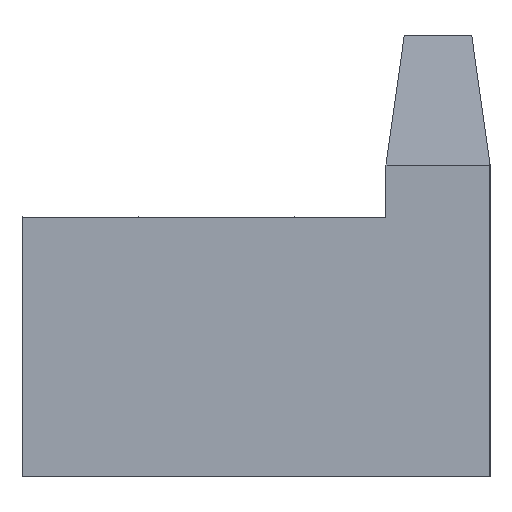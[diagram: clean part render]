
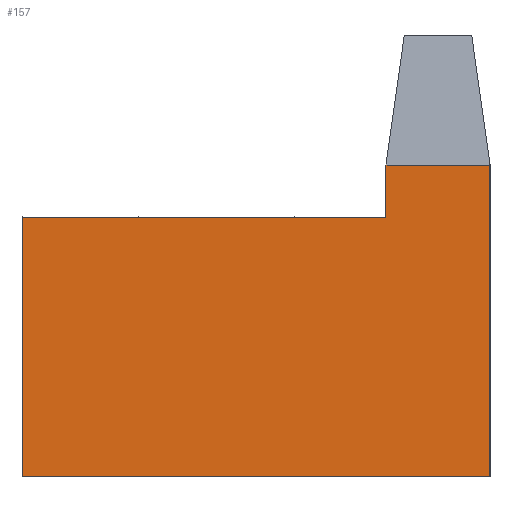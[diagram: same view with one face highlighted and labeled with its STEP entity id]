
A CAD part, left-side view. The second image highlights one B-rep face of the part: STEP entity #157.
In plain terms, the highlighted planar face has unit normal (-1, 0, 0).
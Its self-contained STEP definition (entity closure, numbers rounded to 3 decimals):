
#157=ADVANCED_FACE('',(#926),#928,.T.);
#926=FACE_BOUND('',#927,.T.);
#927=EDGE_LOOP('',(#1512,#1513,#1514,#1515,#1516,#1517));
#928=PLANE('',#929);
#929=AXIS2_PLACEMENT_3D('',#930,#931,#932);
#930=CARTESIAN_POINT('',(0.,30.,0.));
#931=DIRECTION('',(-1.,0.,0.));
#932=DIRECTION('',(0.,-1.,0.));
#1512=ORIENTED_EDGE('',*,*,#1839,.T.);
#1513=ORIENTED_EDGE('',*,*,#1805,.T.);
#1514=ORIENTED_EDGE('',*,*,#1856,.T.);
#1515=ORIENTED_EDGE('',*,*,#1857,.F.);
#1516=ORIENTED_EDGE('',*,*,#1858,.F.);
#1517=ORIENTED_EDGE('',*,*,#1815,.F.);
#1805=EDGE_CURVE('',#1984,#1989,#1991,.F.);
#1815=EDGE_CURVE('',#2009,#2011,#2012,.T.);
#1839=EDGE_CURVE('',#2009,#1984,#2057,.F.);
#1856=EDGE_CURVE('',#1989,#2087,#2089,.T.);
#1857=EDGE_CURVE('',#2090,#2087,#2091,.T.);
#1858=EDGE_CURVE('',#2011,#2090,#2092,.T.);
#1984=VERTEX_POINT('',#2277);
#1989=VERTEX_POINT('',#2286);
#1991=LINE('',#2290,#2291);
#2009=VERTEX_POINT('',#2334);
#2011=VERTEX_POINT('',#2338);
#2012=LINE('',#2339,#2340);
#2057=LINE('',#2440,#2441);
#2087=VERTEX_POINT('',#2502);
#2089=LINE('',#2506,#2507);
#2090=VERTEX_POINT('',#2509);
#2091=LINE('',#2510,#2511);
#2092=LINE('',#2513,#2514);
#2277=CARTESIAN_POINT('',(0.,9.,3.));
#2286=CARTESIAN_POINT('',(0.,0.,3.));
#2290=CARTESIAN_POINT('',(0.,0.,3.));
#2291=VECTOR('',#2292,1.);
#2292=DIRECTION('',(0.,1.,0.));
#2334=CARTESIAN_POINT('',(0.,9.,8.));
#2338=CARTESIAN_POINT('',(0.,2.,8.));
#2339=CARTESIAN_POINT('',(0.,9.,8.));
#2340=VECTOR('',#2341,1.);
#2341=DIRECTION('',(0.,-1.,0.));
#2440=CARTESIAN_POINT('',(0.,9.,3.));
#2441=VECTOR('',#2442,1.);
#2442=DIRECTION('',(0.,0.,1.));
#2502=CARTESIAN_POINT('',(0.,0.,9.));
#2506=CARTESIAN_POINT('',(0.,0.,3.));
#2507=VECTOR('',#2508,1.);
#2508=DIRECTION('',(0.,0.,1.));
#2509=CARTESIAN_POINT('',(0.,2.,9.));
#2510=CARTESIAN_POINT('',(0.,2.,9.));
#2511=VECTOR('',#2512,1.);
#2512=DIRECTION('',(0.,-1.,0.));
#2513=CARTESIAN_POINT('',(0.,2.,8.));
#2514=VECTOR('',#2515,1.);
#2515=DIRECTION('',(0.,0.,1.));
